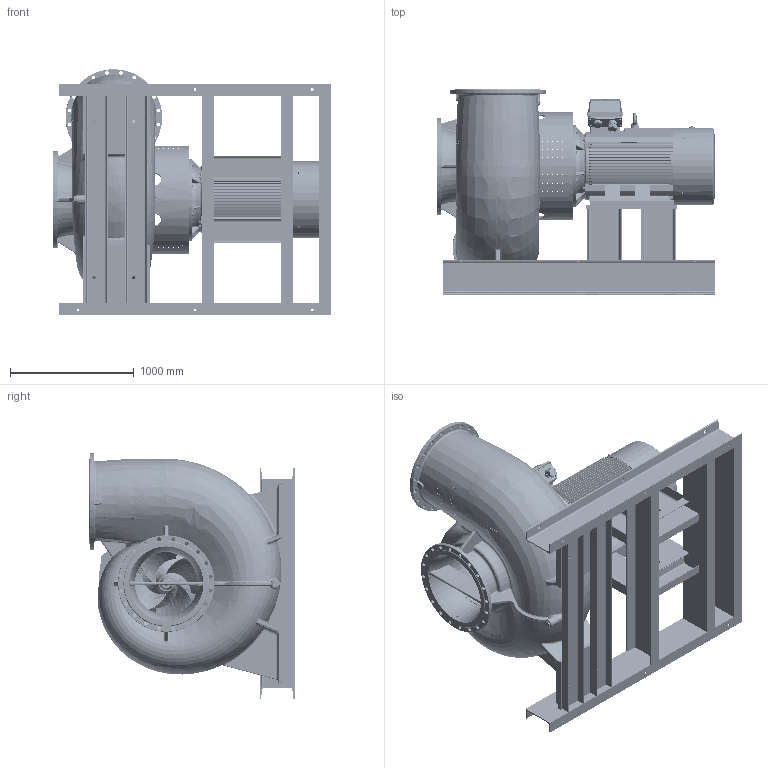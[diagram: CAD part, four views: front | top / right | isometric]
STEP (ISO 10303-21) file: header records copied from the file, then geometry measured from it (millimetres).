
FILE_DESCRIPTION((''),'2;1');
FILE_NAME('NSLH600-630_A02_FO_ASM','2024-05-28T',('maxz'),(''),'PRO/ENGINEER BY PARAMETRIC TECHNOLOGY CORPORATION, 2017170','PRO/ENGINEER BY PARAMETRIC TECHNOLOGY CORPORATION, 2017170','');
FILE_SCHEMA(('CONFIG_CONTROL_DESIGN'));
Products named in the file (43): 599610; 596520; 596570; 596540; 111169; 529370; 716825; 704057; 717923; 117303; 114554; 711066; 506843; 114038; 711064; 703371; 711065; 703376; 704033; 704190; 506955; 712061; 725988_1; 725988_2; 725988_ASM; 700324; 704391; 704390; 712334; 711318; 710729; 696008_ASM; 596560; 117435_AF0; 117435_AF1; 720488; 111755; 700416; 702247; 696010_ASM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
Assembly tree (102 placements, depth 4):
  NSLH600-630_A02_FO_ASM
    696008_ASM
      599610
      596520
      596570
      596540
      111169
      529370
      716825
      704057
      717923
      117303
      114554
      711066  x2
      506843
      114038
      711064  x2
      703371
      711065
      703376  x20
      704033  x16
      704190
      506955
      712061
      725988_ASM
        725988_1
        725988_2
      700324  x8
      704391
      704390  x4
      712334
      711318
      710729
    696010_ASM
      596560
      117435_AF0
      117435_AF1
      720488  x8
      111755
      700416
      702247  x8
    107374
    852642
Bounding box: 2251 x 1655 x 1983 mm (x, y, z)
Volume: 566222748.3 mm3; surface area: 49685253.7 mm2
Topology: 139 solids, 212 shells, 8554 faces, 21751 edges, 13722 vertices
Faces by surface type: plane 2909, cylinder 2096, cone 1284, bspline 940, extrusion 707, torus 503, sphere 111, revolution 4
Entity records: 475582 total; most frequent: CARTESIAN_POINT 299069, ORIENTED_EDGE 38620, DIRECTION 32611, EDGE_CURVE 19442, VERTEX_POINT 12442, AXIS2_PLACEMENT_3D 12302, EDGE_LOOP 8616, VECTOR 8003
